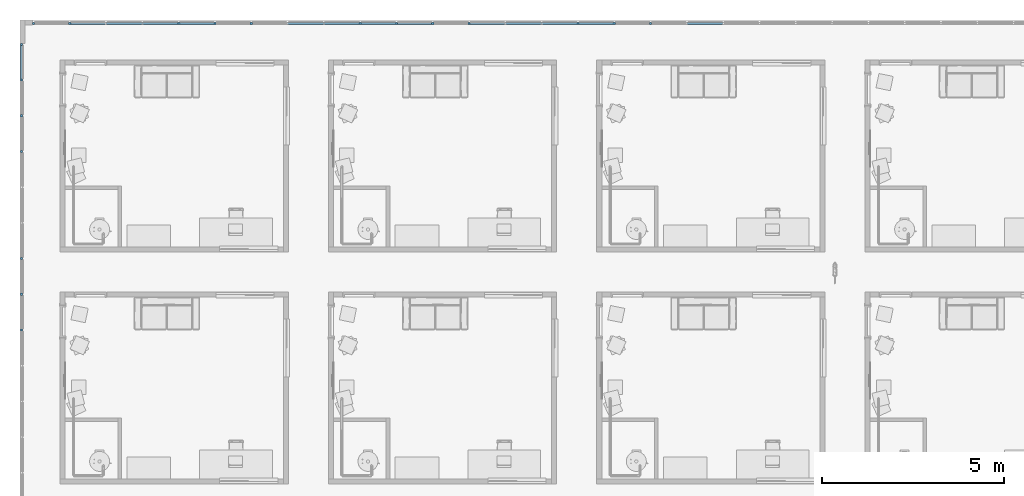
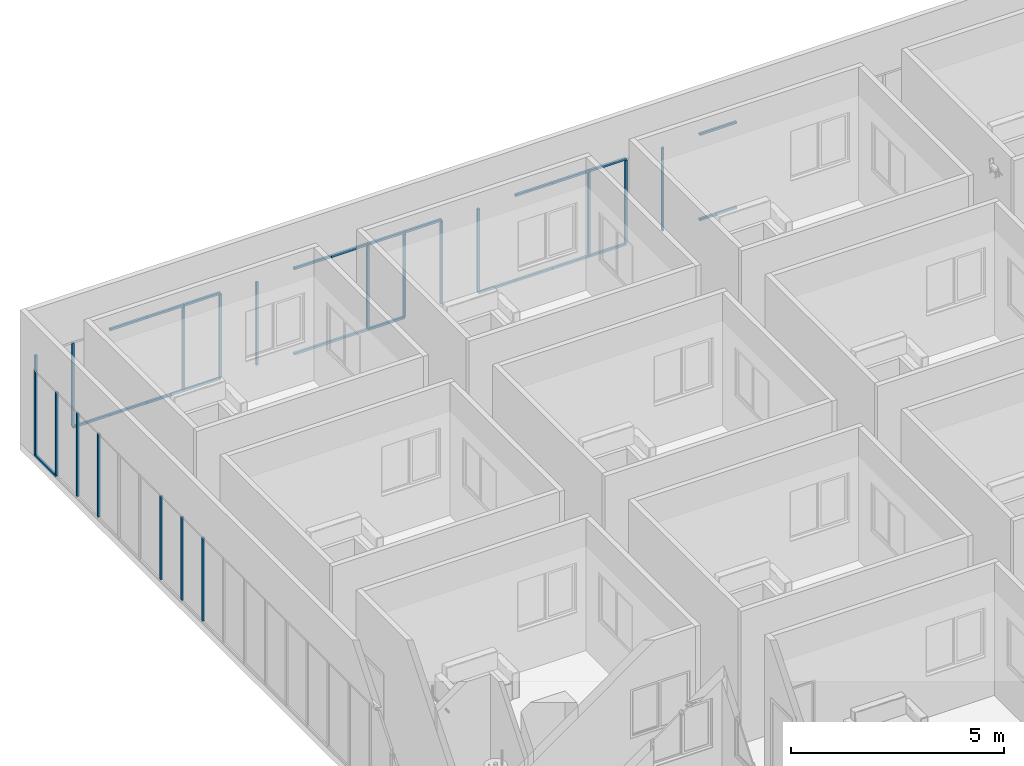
# One storey, part 2 of 69: 43 members, 2 elements without a shape of their own.
"""IFC4 building model written with IfcOpenShell, lengths in centimetres."""

from ifc_helpers import new_model, entity, si_unit, converted_unit, derived_unit, direction, frame, origin, place, context, subcontext, project, spatial, indexed_curve, outline, extrude, source, transform, mapped, material, type_object, type_shapes, element, aggregate, save


model = new_model("IFC4")

# Units and contexts
model_context = context("Model", 3, precision=0.001, world=origin(), true_north=direction((6.123233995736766e-17, 1.0)))
body_context = subcontext(model_context, "Body", "Model", "MODEL_VIEW")
ifc_project = project(units=[si_unit("LENGTHUNIT", "METRE", prefix="CENTI"), si_unit("AREAUNIT", "SQUARE_METRE"), si_unit("VOLUMEUNIT", "CUBIC_METRE"), derived_unit("THERMALTRANSMITTANCEUNIT", [(si_unit("MASSUNIT", "GRAM", prefix="KILO"), 1), (si_unit("THERMODYNAMICTEMPERATUREUNIT", "KELVIN"), -1), (si_unit("TIMEUNIT", "SECOND"), -3)]), converted_unit("PLANEANGLEUNIT", "DEGREE", entity("IfcPlaneAngleMeasure", 0.017453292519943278), si_unit("PLANEANGLEUNIT", "RADIAN"), dimensions=[0, 0, 0, 0, 0, 0, 0]), derived_unit("MASSDENSITYUNIT", [(si_unit("MASSUNIT", "GRAM", prefix="KILO"), 1), (si_unit("LENGTHUNIT", "METRE"), -3)]), derived_unit("VAPORPERMEABILITYUNIT", [(si_unit("LENGTHUNIT", "METRE"), -1), (si_unit("TIMEUNIT", "SECOND"), 1)]), derived_unit("USERDEFINED", [(si_unit("MASSUNIT", "GRAM", prefix="KILO"), 1), (si_unit("TIMEUNIT", "SECOND"), -3), (si_unit("LENGTHUNIT", "METRE"), 3), (si_unit("ELECTRICCURRENTUNIT", "AMPERE"), -2)]), derived_unit("SPECIFICHEATCAPACITYUNIT", [(si_unit("THERMODYNAMICTEMPERATUREUNIT", "KELVIN"), -1), (si_unit("LENGTHUNIT", "METRE"), 2), (si_unit("TIMEUNIT", "SECOND"), -2)]), derived_unit("THERMALCONDUCTANCEUNIT", [(si_unit("MASSUNIT", "GRAM", prefix="KILO"), 1), (si_unit("THERMODYNAMICTEMPERATUREUNIT", "KELVIN"), -1), (si_unit("TIMEUNIT", "SECOND"), -3), (si_unit("LENGTHUNIT", "METRE"), 1)]), si_unit("PRESSUREUNIT", "PASCAL"), derived_unit("MODULUSOFELASTICITYUNIT", [(si_unit("MASSUNIT", "GRAM", prefix="KILO"), 1), (si_unit("LENGTHUNIT", "METRE"), -1), (si_unit("TIMEUNIT", "SECOND"), -2)]), derived_unit("THERMALEXPANSIONCOEFFICIENTUNIT", [(si_unit("THERMODYNAMICTEMPERATUREUNIT", "KELVIN"), -1)])], contexts=[model_context])

# Site, building, storey
site_placement = place(None, origin())
site = spatial("IfcSite", under=ifc_project, at=site_placement, Name="Default", CompositionType="ELEMENT")
building_placement = place(site_placement, origin())
building = spatial("IfcBuilding", under=site, at=building_placement, Name="IDS Escape Game Building", CompositionType="ELEMENT")
storey_placement = place(building_placement, origin())
storey = spatial("IfcBuildingStorey", under=building, at=storey_placement, Name="00_Ground Floor", CompositionType="ELEMENT", Elevation=0.0)

# Curtain wall, members
curtain_wall_type = type_object("IfcCurtainWallType", Name="Curtain Wall:ARC_31.3_CWA_LIB_bandraam vast 100cm - profiel 60x60_gen_BERSnl", PredefinedType="NOTDEFINED")
curtain_wall_1_placement = place(storey_placement, origin())
curtain_wall_1 = element("IfcCurtainWall", 1, at=curtain_wall_1_placement, inside=storey, type_object=curtain_wall_type, Name="Curtain Wall:ARC_31.3_CWA_LIB_bandraam vast 100cm - profiel 60x60_gen_BERSnl", ObjectType="Curtain Wall:ARC_31.3_CWA_LIB_bandraam vast 100cm - profiel 60x60_gen_BERSnl", PredefinedType="NOTDEFINED")
ifc_material = material(Name="<Unnamed>")
member_type_1 = type_object("IfcMemberType", Name="Rectangular Mullion:30-_Stijl_Rechthoek_Midden_B60xD60", PredefinedType="MULLION", material=ifc_material)
shared_shape_1 = source(origin(), body_context, "Body", "SweptSolid", [
    extrude(outline(indexed_curve([(-3.0, -3.0), (3.0, -3.0), (3.0, 3.0), (-3.0, 3.0), (-3.0, -3.0)], self_intersect=False)), frame((-3.0, 3.0, -99.84313725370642), z_axis=(0.0, 0.0, 1.0), x_axis=(-1.0, 0.0, 0.0)), (0.0, 0.0, 1.0), 99.84313725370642),
])
type_shapes(member_type_1, [shared_shape_1])
member_1_placement = place(curtain_wall_1_placement, frame((219.52941179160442, 3182.0, 250.0), z_axis=(1.0, 0.0, 0.0), x_axis=(0.0, 0.0, 1.0)))
member_1 = element("IfcMember", 2, at=member_1_placement, type_object=member_type_1, material=ifc_material, Name="Rectangular Mullion:30-_Stijl_Rechthoek_Midden_B60xD60", ObjectType="Rectangular Mullion:30-_Stijl_Rechthoek_Midden_B60xD60", PredefinedType="MULLION", context=body_context, shape_type="MappedRepresentation", body=[
    mapped(shared_shape_1, transform((0.0, 0.0, 0.0), scale=1.0)),
])
member_2_placement = place(curtain_wall_1_placement, frame((319.3725490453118, 3182.0, 250.0), z_axis=(1.0, 0.0, 0.0), x_axis=(0.0, 0.0, 1.0)))
member_2 = element("IfcMember", 3, at=member_2_placement, type_object=member_type_1, material=ifc_material, Name="Rectangular Mullion:30-_Stijl_Rechthoek_Midden_B60xD60", ObjectType="Rectangular Mullion:30-_Stijl_Rechthoek_Midden_B60xD60", PredefinedType="MULLION", context=body_context, shape_type="MappedRepresentation", body=[
    mapped(shared_shape_1, transform((0.0, 0.0, 0.0), scale=1.0)),
])
member_3_placement = place(curtain_wall_1_placement, frame((419.2156862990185, 3182.0, 250.0), z_axis=(1.0, 0.0, 0.0), x_axis=(0.0, 0.0, 1.0)))
member_3 = element("IfcMember", 4, at=member_3_placement, type_object=member_type_1, material=ifc_material, Name="Rectangular Mullion:30-_Stijl_Rechthoek_Midden_B60xD60", ObjectType="Rectangular Mullion:30-_Stijl_Rechthoek_Midden_B60xD60", PredefinedType="MULLION", context=body_context, shape_type="MappedRepresentation", body=[
    mapped(shared_shape_1, transform((0.0, 0.0, 0.0), scale=1.0)),
])
member_4_placement = place(curtain_wall_1_placement, frame((718.7450980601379, 3182.0, 250.0), z_axis=(1.0, 0.0, 0.0), x_axis=(0.0, 0.0, 1.0)))
member_4 = element("IfcMember", 5, at=member_4_placement, type_object=member_type_1, material=ifc_material, Name="Rectangular Mullion:30-_Stijl_Rechthoek_Midden_B60xD60", ObjectType="Rectangular Mullion:30-_Stijl_Rechthoek_Midden_B60xD60", PredefinedType="MULLION", context=body_context, shape_type="MappedRepresentation", body=[
    mapped(shared_shape_1, transform((0.0, 0.0, 0.0), scale=1.0)),
])
member_5_placement = place(curtain_wall_1_placement, frame((818.5882353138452, 3182.0, 250.0), z_axis=(1.0, 0.0, 0.0), x_axis=(0.0, 0.0, 1.0)))
member_5 = element("IfcMember", 6, at=member_5_placement, type_object=member_type_1, material=ifc_material, Name="Rectangular Mullion:30-_Stijl_Rechthoek_Midden_B60xD60", ObjectType="Rectangular Mullion:30-_Stijl_Rechthoek_Midden_B60xD60", PredefinedType="MULLION", context=body_context, shape_type="MappedRepresentation", body=[
    mapped(shared_shape_1, transform((0.0, 0.0, 0.0), scale=1.0)),
])
member_6_placement = place(curtain_wall_1_placement, frame((918.4313725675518, 3182.0, 250.0), z_axis=(1.0, 0.0, 0.0), x_axis=(0.0, 0.0, 1.0)))
member_6 = element("IfcMember", 7, at=member_6_placement, type_object=member_type_1, material=ifc_material, Name="Rectangular Mullion:30-_Stijl_Rechthoek_Midden_B60xD60", ObjectType="Rectangular Mullion:30-_Stijl_Rechthoek_Midden_B60xD60", PredefinedType="MULLION", context=body_context, shape_type="MappedRepresentation", body=[
    mapped(shared_shape_1, transform((0.0, 0.0, 0.0), scale=1.0)),
])
member_7_placement = place(curtain_wall_1_placement, frame((1018.2745098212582, 3182.0, 250.0), z_axis=(1.0, 0.0, 0.0), x_axis=(0.0, 0.0, 1.0)))
member_7 = element("IfcMember", 8, at=member_7_placement, type_object=member_type_1, material=ifc_material, Name="Rectangular Mullion:30-_Stijl_Rechthoek_Midden_B60xD60", ObjectType="Rectangular Mullion:30-_Stijl_Rechthoek_Midden_B60xD60", PredefinedType="MULLION", context=body_context, shape_type="MappedRepresentation", body=[
    mapped(shared_shape_1, transform((0.0, 0.0, 0.0), scale=1.0)),
])
member_8_placement = place(curtain_wall_1_placement, frame((1317.803921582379, 3182.0, 250.0), z_axis=(1.0, 0.0, 0.0), x_axis=(0.0, 0.0, 1.0)))
member_8 = element("IfcMember", 9, at=member_8_placement, type_object=member_type_1, material=ifc_material, Name="Rectangular Mullion:30-_Stijl_Rechthoek_Midden_B60xD60", ObjectType="Rectangular Mullion:30-_Stijl_Rechthoek_Midden_B60xD60", PredefinedType="MULLION", context=body_context, shape_type="MappedRepresentation", body=[
    mapped(shared_shape_1, transform((0.0, 0.0, 0.0), scale=1.0)),
])
member_9_placement = place(curtain_wall_1_placement, frame((1417.6470588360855, 3182.0, 250.0), z_axis=(1.0, 0.0, 0.0), x_axis=(0.0, 0.0, 1.0)))
member_9 = element("IfcMember", 10, at=member_9_placement, type_object=member_type_1, material=ifc_material, Name="Rectangular Mullion:30-_Stijl_Rechthoek_Midden_B60xD60", ObjectType="Rectangular Mullion:30-_Stijl_Rechthoek_Midden_B60xD60", PredefinedType="MULLION", context=body_context, shape_type="MappedRepresentation", body=[
    mapped(shared_shape_1, transform((0.0, 0.0, 0.0), scale=1.0)),
])
member_10_placement = place(curtain_wall_1_placement, frame((1517.490196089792, 3182.0, 250.0), z_axis=(1.0, 0.0, 0.0), x_axis=(0.0, 0.0, 1.0)))
member_10 = element("IfcMember", 11, at=member_10_placement, type_object=member_type_1, material=ifc_material, Name="Rectangular Mullion:30-_Stijl_Rechthoek_Midden_B60xD60", ObjectType="Rectangular Mullion:30-_Stijl_Rechthoek_Midden_B60xD60", PredefinedType="MULLION", context=body_context, shape_type="MappedRepresentation", body=[
    mapped(shared_shape_1, transform((0.0, 0.0, 0.0), scale=1.0)),
])
member_11_placement = place(curtain_wall_1_placement, frame((1817.0196078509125, 3182.0, 250.0), z_axis=(1.0, 0.0, 0.0), x_axis=(0.0, 0.0, 1.0)))
member_11 = element("IfcMember", 12, at=member_11_placement, type_object=member_type_1, material=ifc_material, Name="Rectangular Mullion:30-_Stijl_Rechthoek_Midden_B60xD60", ObjectType="Rectangular Mullion:30-_Stijl_Rechthoek_Midden_B60xD60", PredefinedType="MULLION", context=body_context, shape_type="MappedRepresentation", body=[
    mapped(shared_shape_1, transform((0.0, 0.0, 0.0), scale=1.0)),
])
member_type_2 = type_object("IfcMemberType", Name="Rectangular Mullion:30-_Stijl_Rechthoek_Midden_B60xD60", PredefinedType="MULLION", material=ifc_material)
shared_shape_2 = source(origin(), body_context, "Body", "SweptSolid", [
    extrude(outline(indexed_curve([(-3.0, -3.0), (3.0, -3.0), (3.0, 3.0), (-3.0, 3.0), (-3.0, -3.0)], self_intersect=False)), frame((-3.0, 3.0, -99.84313725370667), z_axis=(0.0, 0.0, 1.0), x_axis=(-1.0, 0.0, 0.0)), (0.0, 0.0, 1.0), 99.84313725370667),
])
type_shapes(member_type_2, [shared_shape_2])
member_12_placement = place(curtain_wall_1_placement, frame((19.843137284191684, 3182.0, 0.0), z_axis=(-1.0, 0.0, 0.0), x_axis=(0.0, 0.0, -1.0)))
member_12 = element("IfcMember", 13, at=member_12_placement, type_object=member_type_2, material=ifc_material, Name="Rectangular Mullion:30-_Stijl_Rechthoek_Midden_B60xD60", ObjectType="Rectangular Mullion:30-_Stijl_Rechthoek_Midden_B60xD60", PredefinedType="MULLION", context=body_context, shape_type="MappedRepresentation", body=[
    mapped(shared_shape_2, transform((0.0, 0.0, 0.0), scale=1.0)),
])
member_13_placement = place(curtain_wall_1_placement, frame((119.68627453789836, 3182.0, 0.0), z_axis=(-1.0, 0.0, 0.0), x_axis=(0.0, 0.0, -1.0)))
member_13 = element("IfcMember", 14, at=member_13_placement, type_object=member_type_2, material=ifc_material, Name="Rectangular Mullion:30-_Stijl_Rechthoek_Midden_B60xD60", ObjectType="Rectangular Mullion:30-_Stijl_Rechthoek_Midden_B60xD60", PredefinedType="MULLION", context=body_context, shape_type="MappedRepresentation", body=[
    mapped(shared_shape_2, transform((0.0, 0.0, 0.0), scale=1.0)),
])
member_14_placement = place(curtain_wall_1_placement, frame((219.529411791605, 3182.0, 0.0), z_axis=(-1.0, 0.0, 0.0), x_axis=(0.0, 0.0, -1.0)))
member_14 = element("IfcMember", 15, at=member_14_placement, type_object=member_type_2, material=ifc_material, Name="Rectangular Mullion:30-_Stijl_Rechthoek_Midden_B60xD60", ObjectType="Rectangular Mullion:30-_Stijl_Rechthoek_Midden_B60xD60", PredefinedType="MULLION", context=body_context, shape_type="MappedRepresentation", body=[
    mapped(shared_shape_2, transform((0.0, 0.0, 0.0), scale=1.0)),
])
member_15_placement = place(curtain_wall_1_placement, frame((319.3725490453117, 3182.0, 0.0), z_axis=(-1.0, 0.0, 0.0), x_axis=(0.0, 0.0, -1.0)))
member_15 = element("IfcMember", 16, at=member_15_placement, type_object=member_type_2, material=ifc_material, Name="Rectangular Mullion:30-_Stijl_Rechthoek_Midden_B60xD60", ObjectType="Rectangular Mullion:30-_Stijl_Rechthoek_Midden_B60xD60", PredefinedType="MULLION", context=body_context, shape_type="MappedRepresentation", body=[
    mapped(shared_shape_2, transform((0.0, 0.0, 0.0), scale=1.0)),
])
member_16_placement = place(curtain_wall_1_placement, frame((618.9019608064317, 3182.0, 0.0), z_axis=(-1.0, 0.0, 0.0), x_axis=(0.0, 0.0, -1.0)))
member_16 = element("IfcMember", 17, at=member_16_placement, type_object=member_type_2, material=ifc_material, Name="Rectangular Mullion:30-_Stijl_Rechthoek_Midden_B60xD60", ObjectType="Rectangular Mullion:30-_Stijl_Rechthoek_Midden_B60xD60", PredefinedType="MULLION", context=body_context, shape_type="MappedRepresentation", body=[
    mapped(shared_shape_2, transform((0.0, 0.0, 0.0), scale=1.0)),
])
member_17_placement = place(curtain_wall_1_placement, frame((718.7450980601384, 3182.0, 0.0), z_axis=(-1.0, 0.0, 0.0), x_axis=(0.0, 0.0, -1.0)))
member_17 = element("IfcMember", 18, at=member_17_placement, type_object=member_type_2, material=ifc_material, Name="Rectangular Mullion:30-_Stijl_Rechthoek_Midden_B60xD60", ObjectType="Rectangular Mullion:30-_Stijl_Rechthoek_Midden_B60xD60", PredefinedType="MULLION", context=body_context, shape_type="MappedRepresentation", body=[
    mapped(shared_shape_2, transform((0.0, 0.0, 0.0), scale=1.0)),
])
member_18_placement = place(curtain_wall_1_placement, frame((818.5882353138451, 3182.0, 0.0), z_axis=(-1.0, 0.0, 0.0), x_axis=(0.0, 0.0, -1.0)))
member_18 = element("IfcMember", 19, at=member_18_placement, type_object=member_type_2, material=ifc_material, Name="Rectangular Mullion:30-_Stijl_Rechthoek_Midden_B60xD60", ObjectType="Rectangular Mullion:30-_Stijl_Rechthoek_Midden_B60xD60", PredefinedType="MULLION", context=body_context, shape_type="MappedRepresentation", body=[
    mapped(shared_shape_2, transform((0.0, 0.0, 0.0), scale=1.0)),
])
member_19_placement = place(curtain_wall_1_placement, frame((1118.1176470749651, 3182.0, 0.0), z_axis=(-1.0, 0.0, 0.0), x_axis=(0.0, 0.0, -1.0)))
member_19 = element("IfcMember", 20, at=member_19_placement, type_object=member_type_2, material=ifc_material, Name="Rectangular Mullion:30-_Stijl_Rechthoek_Midden_B60xD60", ObjectType="Rectangular Mullion:30-_Stijl_Rechthoek_Midden_B60xD60", PredefinedType="MULLION", context=body_context, shape_type="MappedRepresentation", body=[
    mapped(shared_shape_2, transform((0.0, 0.0, 0.0), scale=1.0)),
])
member_20_placement = place(curtain_wall_1_placement, frame((1217.960784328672, 3182.0, 0.0), z_axis=(-1.0, 0.0, 0.0), x_axis=(0.0, 0.0, -1.0)))
member_20 = element("IfcMember", 21, at=member_20_placement, type_object=member_type_2, material=ifc_material, Name="Rectangular Mullion:30-_Stijl_Rechthoek_Midden_B60xD60", ObjectType="Rectangular Mullion:30-_Stijl_Rechthoek_Midden_B60xD60", PredefinedType="MULLION", context=body_context, shape_type="MappedRepresentation", body=[
    mapped(shared_shape_2, transform((0.0, 0.0, 0.0), scale=1.0)),
])
member_21_placement = place(curtain_wall_1_placement, frame((1317.8039215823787, 3182.0, 0.0), z_axis=(-1.0, 0.0, 0.0), x_axis=(0.0, 0.0, -1.0)))
member_21 = element("IfcMember", 22, at=member_21_placement, type_object=member_type_2, material=ifc_material, Name="Rectangular Mullion:30-_Stijl_Rechthoek_Midden_B60xD60", ObjectType="Rectangular Mullion:30-_Stijl_Rechthoek_Midden_B60xD60", PredefinedType="MULLION", context=body_context, shape_type="MappedRepresentation", body=[
    mapped(shared_shape_2, transform((0.0, 0.0, 0.0), scale=1.0)),
])
member_22_placement = place(curtain_wall_1_placement, frame((1417.6470588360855, 3182.0, 0.0), z_axis=(-1.0, 0.0, 0.0), x_axis=(0.0, 0.0, -1.0)))
member_22 = element("IfcMember", 23, at=member_22_placement, type_object=member_type_2, material=ifc_material, Name="Rectangular Mullion:30-_Stijl_Rechthoek_Midden_B60xD60", ObjectType="Rectangular Mullion:30-_Stijl_Rechthoek_Midden_B60xD60", PredefinedType="MULLION", context=body_context, shape_type="MappedRepresentation", body=[
    mapped(shared_shape_2, transform((0.0, 0.0, 0.0), scale=1.0)),
])
member_23_placement = place(curtain_wall_1_placement, frame((1717.176470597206, 3182.0, 0.0), z_axis=(-1.0, 0.0, 0.0), x_axis=(0.0, 0.0, -1.0)))
member_23 = element("IfcMember", 24, at=member_23_placement, type_object=member_type_2, material=ifc_material, Name="Rectangular Mullion:30-_Stijl_Rechthoek_Midden_B60xD60", ObjectType="Rectangular Mullion:30-_Stijl_Rechthoek_Midden_B60xD60", PredefinedType="MULLION", context=body_context, shape_type="MappedRepresentation", body=[
    mapped(shared_shape_2, transform((0.0, 0.0, 0.0), scale=1.0)),
])
member_type_3 = type_object("IfcMemberType", Name="Rectangular Mullion:30-_Stijl_Rechthoek_Midden_B60xD60", PredefinedType="MULLION", material=ifc_material)
shared_shape_3 = source(origin(), body_context, "Body", "SweptSolid", [
    extrude(outline(indexed_curve([(-3.0, -3.0), (3.0, -3.0), (3.0, 3.0), (-3.0, 3.0), (-3.0, -3.0)], self_intersect=False)), frame((-3.0, 3.0, -238.0), z_axis=(0.0, 0.0, 1.0), x_axis=(-1.0, 0.0, 0.0)), (0.0, 0.0, 1.0), 238.00000000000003),
])
type_shapes(member_type_3, [shared_shape_3])
member_24_placement = place(curtain_wall_1_placement, frame((-83.0, 3182.0, 244.0), z_axis=(0.0, 0.0, 1.0), x_axis=(-1.0, 0.0, 0.0)))
member_24 = element("IfcMember", 25, at=member_24_placement, type_object=member_type_3, material=ifc_material, Name="Rectangular Mullion:30-_Stijl_Rechthoek_Midden_B60xD60", ObjectType="Rectangular Mullion:30-_Stijl_Rechthoek_Midden_B60xD60", PredefinedType="MULLION", context=body_context, shape_type="MappedRepresentation", body=[
    mapped(shared_shape_3, transform((0.0, 0.0, 0.0), scale=1.0)),
])

# Curtain wall, member
curtain_wall_2_placement = place(storey_placement, origin())
curtain_wall_2 = element("IfcCurtainWall", 26, at=curtain_wall_2_placement, inside=storey, type_object=curtain_wall_type, Name="Curtain Wall:ARC_31.3_CWA_LIB_bandraam vast 100cm - profiel 60x60_gen_BERSnl", ObjectType="Curtain Wall:ARC_31.3_CWA_LIB_bandraam vast 100cm - profiel 60x60_gen_BERSnl", PredefinedType="NOTDEFINED")
member_25_placement = place(curtain_wall_2_placement, frame((-110.0, 3125.0, 244.0), z_axis=(0.0, 0.0, 1.0), x_axis=(0.0, 1.0, 0.0)))
member_25 = element("IfcMember", 27, at=member_25_placement, type_object=member_type_3, material=ifc_material, Name="Rectangular Mullion:30-_Stijl_Rechthoek_Midden_B60xD60", ObjectType="Rectangular Mullion:30-_Stijl_Rechthoek_Midden_B60xD60", PredefinedType="MULLION", context=body_context, shape_type="MappedRepresentation", body=[
    mapped(shared_shape_3, transform((0.0, 0.0, 0.0), scale=1.0)),
])

# Member
member_type_4 = type_object("IfcMemberType", Name="Rectangular Mullion:30-_Stijl_Rechthoek_Midden_B60xD60", PredefinedType="MULLION", material=ifc_material)
shared_shape_4 = source(origin(), body_context, "Body", "SweptSolid", [
    extrude(outline(indexed_curve([(-3.0, -3.0), (3.0, -3.0), (3.0, 3.0), (-3.0, 3.0), (-3.0, -3.0)], self_intersect=False)), frame((0.0, 3.0, -238.0), z_axis=(0.0, 0.0, 1.0), x_axis=(-1.0, 0.0, 0.0)), (0.0, 0.0, 1.0), 238.00000000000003),
])
type_shapes(member_type_4, [shared_shape_4])
member_26_placement = place(curtain_wall_1_placement, frame((19.843137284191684, 3182.0, 6.0), z_axis=(0.0, 0.0, -1.0), x_axis=(1.0, 0.0, 0.0)))
member_26 = element("IfcMember", 28, at=member_26_placement, type_object=member_type_4, material=ifc_material, Name="Rectangular Mullion:30-_Stijl_Rechthoek_Midden_B60xD60", ObjectType="Rectangular Mullion:30-_Stijl_Rechthoek_Midden_B60xD60", PredefinedType="MULLION", context=body_context, shape_type="MappedRepresentation", body=[
    mapped(shared_shape_4, transform((0.0, 0.0, 0.0), scale=1.0)),
])

member_27_placement = place(curtain_wall_1_placement, frame((319.3725490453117, 3182.0, 6.0), z_axis=(0.0, 0.0, -1.0), x_axis=(1.0, 0.0, 0.0)))
member_27 = element("IfcMember", 29, at=member_27_placement, type_object=member_type_4, material=ifc_material, Name="Rectangular Mullion:30-_Stijl_Rechthoek_Midden_B60xD60", ObjectType="Rectangular Mullion:30-_Stijl_Rechthoek_Midden_B60xD60", PredefinedType="MULLION", context=body_context, shape_type="MappedRepresentation", body=[
    mapped(shared_shape_4, transform((0.0, 0.0, 0.0), scale=1.0)),
])

member_28_placement = place(curtain_wall_1_placement, frame((419.2156862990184, 3182.0, 6.0), z_axis=(0.0, 0.0, -1.0), x_axis=(1.0, 0.0, 0.0)))
member_28 = element("IfcMember", 30, at=member_28_placement, type_object=member_type_4, material=ifc_material, Name="Rectangular Mullion:30-_Stijl_Rechthoek_Midden_B60xD60", ObjectType="Rectangular Mullion:30-_Stijl_Rechthoek_Midden_B60xD60", PredefinedType="MULLION", context=body_context, shape_type="MappedRepresentation", body=[
    mapped(shared_shape_4, transform((0.0, 0.0, 0.0), scale=1.0)),
])

member_29_placement = place(curtain_wall_1_placement, frame((519.0588235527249, 3182.0, 6.0), z_axis=(0.0, 0.0, -1.0), x_axis=(1.0, 0.0, 0.0)))
member_29 = element("IfcMember", 31, at=member_29_placement, type_object=member_type_4, material=ifc_material, Name="Rectangular Mullion:30-_Stijl_Rechthoek_Midden_B60xD60", ObjectType="Rectangular Mullion:30-_Stijl_Rechthoek_Midden_B60xD60", PredefinedType="MULLION", context=body_context, shape_type="MappedRepresentation", body=[
    mapped(shared_shape_4, transform((0.0, 0.0, 0.0), scale=1.0)),
])

member_30_placement = place(curtain_wall_1_placement, frame((818.5882353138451, 3182.0, 6.0), z_axis=(0.0, 0.0, -1.0), x_axis=(1.0, 0.0, 0.0)))
member_30 = element("IfcMember", 32, at=member_30_placement, type_object=member_type_4, material=ifc_material, Name="Rectangular Mullion:30-_Stijl_Rechthoek_Midden_B60xD60", ObjectType="Rectangular Mullion:30-_Stijl_Rechthoek_Midden_B60xD60", PredefinedType="MULLION", context=body_context, shape_type="MappedRepresentation", body=[
    mapped(shared_shape_4, transform((0.0, 0.0, 0.0), scale=1.0)),
])

member_31_placement = place(curtain_wall_1_placement, frame((918.4313725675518, 3182.0, 6.0), z_axis=(0.0, 0.0, -1.0), x_axis=(1.0, 0.0, 0.0)))
member_31 = element("IfcMember", 33, at=member_31_placement, type_object=member_type_4, material=ifc_material, Name="Rectangular Mullion:30-_Stijl_Rechthoek_Midden_B60xD60", ObjectType="Rectangular Mullion:30-_Stijl_Rechthoek_Midden_B60xD60", PredefinedType="MULLION", context=body_context, shape_type="MappedRepresentation", body=[
    mapped(shared_shape_4, transform((0.0, 0.0, 0.0), scale=1.0)),
])

member_32_placement = place(curtain_wall_1_placement, frame((1018.2745098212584, 3182.0, 6.0), z_axis=(0.0, 0.0, -1.0), x_axis=(1.0, 0.0, 0.0)))
member_32 = element("IfcMember", 34, at=member_32_placement, type_object=member_type_4, material=ifc_material, Name="Rectangular Mullion:30-_Stijl_Rechthoek_Midden_B60xD60", ObjectType="Rectangular Mullion:30-_Stijl_Rechthoek_Midden_B60xD60", PredefinedType="MULLION", context=body_context, shape_type="MappedRepresentation", body=[
    mapped(shared_shape_4, transform((0.0, 0.0, 0.0), scale=1.0)),
])

member_33_placement = place(curtain_wall_1_placement, frame((1118.1176470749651, 3182.0, 6.0), z_axis=(0.0, 0.0, -1.0), x_axis=(1.0, 0.0, 0.0)))
member_33 = element("IfcMember", 35, at=member_33_placement, type_object=member_type_4, material=ifc_material, Name="Rectangular Mullion:30-_Stijl_Rechthoek_Midden_B60xD60", ObjectType="Rectangular Mullion:30-_Stijl_Rechthoek_Midden_B60xD60", PredefinedType="MULLION", context=body_context, shape_type="MappedRepresentation", body=[
    mapped(shared_shape_4, transform((0.0, 0.0, 0.0), scale=1.0)),
])

member_34_placement = place(curtain_wall_1_placement, frame((1417.6470588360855, 3182.0, 6.0), z_axis=(0.0, 0.0, -1.0), x_axis=(1.0, 0.0, 0.0)))
member_34 = element("IfcMember", 36, at=member_34_placement, type_object=member_type_4, material=ifc_material, Name="Rectangular Mullion:30-_Stijl_Rechthoek_Midden_B60xD60", ObjectType="Rectangular Mullion:30-_Stijl_Rechthoek_Midden_B60xD60", PredefinedType="MULLION", context=body_context, shape_type="MappedRepresentation", body=[
    mapped(shared_shape_4, transform((0.0, 0.0, 0.0), scale=1.0)),
])

member_35_placement = place(curtain_wall_1_placement, frame((1517.4901960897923, 3182.0, 6.0), z_axis=(0.0, 0.0, -1.0), x_axis=(1.0, 0.0, 0.0)))
member_35 = element("IfcMember", 37, at=member_35_placement, type_object=member_type_4, material=ifc_material, Name="Rectangular Mullion:30-_Stijl_Rechthoek_Midden_B60xD60", ObjectType="Rectangular Mullion:30-_Stijl_Rechthoek_Midden_B60xD60", PredefinedType="MULLION", context=body_context, shape_type="MappedRepresentation", body=[
    mapped(shared_shape_4, transform((0.0, 0.0, 0.0), scale=1.0)),
])

member_36_placement = place(curtain_wall_1_placement, frame((1617.3333333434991, 3182.0, 6.0), z_axis=(0.0, 0.0, -1.0), x_axis=(1.0, 0.0, 0.0)))
member_36 = element("IfcMember", 38, at=member_36_placement, type_object=member_type_4, material=ifc_material, Name="Rectangular Mullion:30-_Stijl_Rechthoek_Midden_B60xD60", ObjectType="Rectangular Mullion:30-_Stijl_Rechthoek_Midden_B60xD60", PredefinedType="MULLION", context=body_context, shape_type="MappedRepresentation", body=[
    mapped(shared_shape_4, transform((0.0, 0.0, 0.0), scale=1.0)),
])

aggregate(curtain_wall_1, [member_1, member_2, member_3, member_4, member_5, member_6, member_7, member_8, member_9, member_10, member_11, member_12, member_13, member_14, member_15, member_16, member_17, member_18, member_19, member_20, member_21, member_22, member_23, member_24, member_26, member_27, member_28, member_29, member_30, member_31, member_32, member_33, member_34, member_35, member_36])

member_37_placement = place(curtain_wall_2_placement, frame((-110.0, 3023.80645158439, 6.0), z_axis=(0.0, 0.0, -1.0), x_axis=(0.0, -1.0, 0.0)))
member_37 = element("IfcMember", 39, at=member_37_placement, type_object=member_type_4, material=ifc_material, Name="Rectangular Mullion:30-_Stijl_Rechthoek_Midden_B60xD60", ObjectType="Rectangular Mullion:30-_Stijl_Rechthoek_Midden_B60xD60", PredefinedType="MULLION", context=body_context, shape_type="MappedRepresentation", body=[
    mapped(shared_shape_4, transform((0.0, 0.0, 0.0), scale=1.0)),
])

member_38_placement = place(curtain_wall_2_placement, frame((-110.0, 2925.61290319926, 6.0), z_axis=(0.0, 0.0, -1.0), x_axis=(0.0, -1.0, 0.0)))
member_38 = element("IfcMember", 40, at=member_38_placement, type_object=member_type_4, material=ifc_material, Name="Rectangular Mullion:30-_Stijl_Rechthoek_Midden_B60xD60", ObjectType="Rectangular Mullion:30-_Stijl_Rechthoek_Midden_B60xD60", PredefinedType="MULLION", context=body_context, shape_type="MappedRepresentation", body=[
    mapped(shared_shape_4, transform((0.0, 0.0, 0.0), scale=1.0)),
])

member_39_placement = place(curtain_wall_2_placement, frame((-110.0, 2827.4193548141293, 6.0), z_axis=(0.0, 0.0, -1.0), x_axis=(0.0, -1.0, 0.0)))
member_39 = element("IfcMember", 41, at=member_39_placement, type_object=member_type_4, material=ifc_material, Name="Rectangular Mullion:30-_Stijl_Rechthoek_Midden_B60xD60", ObjectType="Rectangular Mullion:30-_Stijl_Rechthoek_Midden_B60xD60", PredefinedType="MULLION", context=body_context, shape_type="MappedRepresentation", body=[
    mapped(shared_shape_4, transform((0.0, 0.0, 0.0), scale=1.0)),
])

member_40_placement = place(curtain_wall_2_placement, frame((-110.0, 2532.8387096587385, 6.0), z_axis=(0.0, 0.0, -1.0), x_axis=(0.0, -1.0, 0.0)))
member_40 = element("IfcMember", 42, at=member_40_placement, type_object=member_type_4, material=ifc_material, Name="Rectangular Mullion:30-_Stijl_Rechthoek_Midden_B60xD60", ObjectType="Rectangular Mullion:30-_Stijl_Rechthoek_Midden_B60xD60", PredefinedType="MULLION", context=body_context, shape_type="MappedRepresentation", body=[
    mapped(shared_shape_4, transform((0.0, 0.0, 0.0), scale=1.0)),
])

member_41_placement = place(curtain_wall_2_placement, frame((-110.0, 2434.645161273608, 6.0), z_axis=(0.0, 0.0, -1.0), x_axis=(0.0, -1.0, 0.0)))
member_41 = element("IfcMember", 43, at=member_41_placement, type_object=member_type_4, material=ifc_material, Name="Rectangular Mullion:30-_Stijl_Rechthoek_Midden_B60xD60", ObjectType="Rectangular Mullion:30-_Stijl_Rechthoek_Midden_B60xD60", PredefinedType="MULLION", context=body_context, shape_type="MappedRepresentation", body=[
    mapped(shared_shape_4, transform((0.0, 0.0, 0.0), scale=1.0)),
])

member_42_placement = place(curtain_wall_2_placement, frame((-110.0, 2336.4516128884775, 6.0), z_axis=(0.0, 0.0, -1.0), x_axis=(0.0, -1.0, 0.0)))
member_42 = element("IfcMember", 44, at=member_42_placement, type_object=member_type_4, material=ifc_material, Name="Rectangular Mullion:30-_Stijl_Rechthoek_Midden_B60xD60", ObjectType="Rectangular Mullion:30-_Stijl_Rechthoek_Midden_B60xD60", PredefinedType="MULLION", context=body_context, shape_type="MappedRepresentation", body=[
    mapped(shared_shape_4, transform((0.0, 0.0, 0.0), scale=1.0)),
])

member_type_5 = type_object("IfcMemberType", Name="Rectangular Mullion:30-_Stijl_Rechthoek_Midden_B60xD60", PredefinedType="MULLION", material=ifc_material)
shared_shape_5 = source(origin(), body_context, "Body", "SweptSolid", [
    extrude(outline(indexed_curve([(-3.0, -3.0), (3.0, -3.0), (3.0, 3.0), (-3.0, 3.0), (-3.0, -3.0)], self_intersect=False)), frame((-3.0, 3.0, -101.1935484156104), z_axis=(0.0, 0.0, 1.0), x_axis=(-1.0, 0.0, 0.0)), (0.0, 0.0, 1.0), 101.1935484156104),
])
type_shapes(member_type_5, [shared_shape_5])
member_43_placement = place(curtain_wall_2_placement, frame((-110.0, 3125.0, 0.0), z_axis=(0.0, 1.0, 0.0), x_axis=(0.0, 0.0, -1.0)))
member_43 = element("IfcMember", 45, at=member_43_placement, type_object=member_type_5, material=ifc_material, Name="Rectangular Mullion:30-_Stijl_Rechthoek_Midden_B60xD60", ObjectType="Rectangular Mullion:30-_Stijl_Rechthoek_Midden_B60xD60", PredefinedType="MULLION", context=body_context, shape_type="MappedRepresentation", body=[
    mapped(shared_shape_5, transform((0.0, 0.0, 0.0), scale=1.0)),
])

aggregate(curtain_wall_2, [member_43, member_25, member_37, member_38, member_39, member_40, member_41, member_42])

save(model, "model.ifc")
